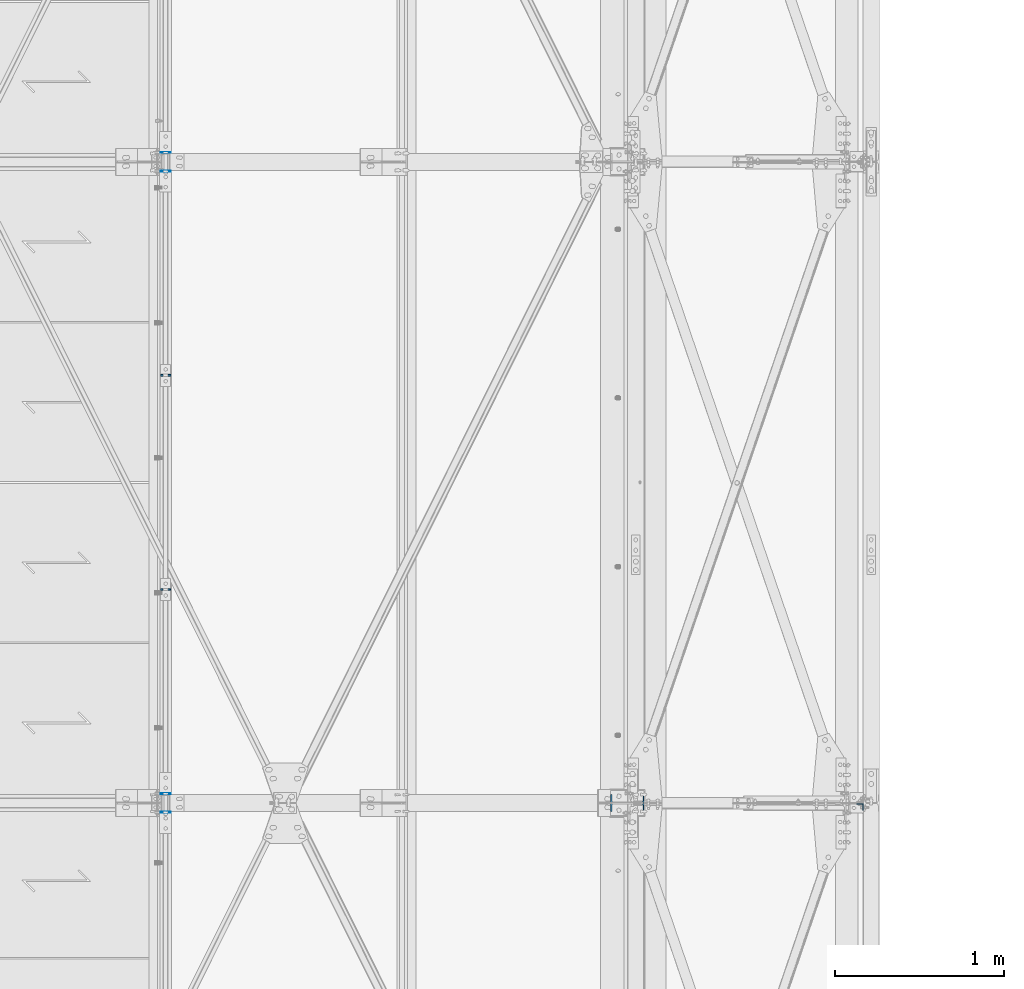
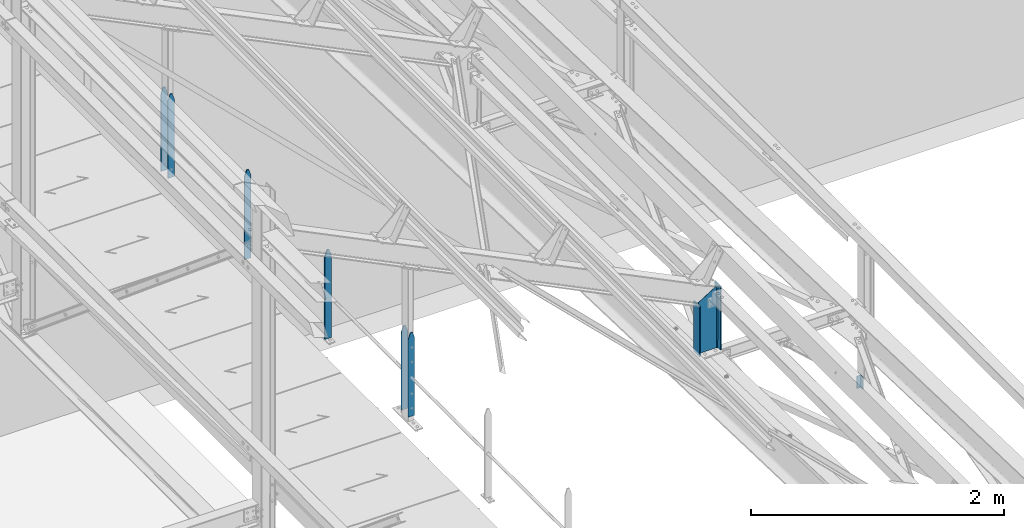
# One storey, part 37 of 362: 8 columns, 5 elements without a shape of their own.
"""IFC2X3 building model written with IfcOpenShell, lengths in millimetres."""

from ifc_helpers import new_model, si_unit, frame, origin_with_axes, origin_2d_with_axis, place, context, subcontext, project, spatial, rectangle, i_section, l_section, extrude, clip, halfspace, material, type_object, element, aggregate, save


model = new_model("IFC2X3")

# Units and contexts
model_context = context("Model", 3, precision=1e-05, world=origin_with_axes())
body_context = subcontext(model_context, "Body", "Model", "MODEL_VIEW")
ifc_project = project(units=[si_unit("LENGTHUNIT", "METRE", prefix="MILLI"), si_unit("AREAUNIT", "SQUARE_METRE"), si_unit("VOLUMEUNIT", "CUBIC_METRE"), si_unit("MASSUNIT", "GRAM", prefix="KILO"), si_unit("TIMEUNIT", "SECOND"), si_unit("PLANEANGLEUNIT", "RADIAN"), si_unit("SOLIDANGLEUNIT", "STERADIAN"), si_unit("THERMODYNAMICTEMPERATUREUNIT", "DEGREE_CELSIUS"), si_unit("LUMINOUSINTENSITYUNIT", "LUMEN")], contexts=[model_context])

# Site, building, storey
site_placement = place(None, origin_with_axes())
site = spatial("IfcSite", under=ifc_project, at=site_placement, Name="Undefined", CompositionType="ELEMENT")
building_placement = place(site_placement, origin_with_axes())
building = spatial("IfcBuilding", under=site, at=building_placement, Name="Undefined", CompositionType="ELEMENT")
storey_placement = place(building_placement, origin_with_axes())
storey = spatial("IfcBuildingStorey", under=building, at=storey_placement, Name="Undefined", CompositionType="ELEMENT", Elevation=0.0)

# Assembly, columns
assembly_1_placement = place(storey_placement, origin_with_axes())
assembly_1 = element("IfcElementAssembly", 1, at=assembly_1_placement, inside=storey, Name="MAIN COURANTE", AssemblyPlace="NOTDEFINED", PredefinedType="NOTDEFINED")
ifc_material_1 = material(Name="Undefined/S235-E24")
column_type_1 = type_object("IfcColumnType", Name="PL10*60", PredefinedType="NOTDEFINED")
column_1_placement = place(assembly_1_placement, frame((35593.9917150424, 5065.00343196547, 8250.00000552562), z_axis=(0.0, 0.0, 1.0), x_axis=(1.0, 0.0, 0.0)))
column_1 = element("IfcColumn", 2, at=column_1_placement, type_object=column_type_1, material=ifc_material_1, Name="MONTANT", ObjectType="PL10*60", context=body_context, shape_type="Clipping", body=[
    clip(clip(extrude(rectangle(XDim=10.0, YDim=60.0, at=origin_2d_with_axis()), frame((0.0, 0.0, 857.599997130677), z_axis=(0.0, 0.0, -1.0), x_axis=(0.0, 1.0, 0.0)), (0.0, 0.0, 1.0), 857.6), halfspace(frame((30.0000001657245, -5.000000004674, 797.599997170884), z_axis=(0.948683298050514, 0.0, 0.316227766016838), x_axis=(-0.316227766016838, 0.0, 0.948683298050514)), False)), halfspace(frame((-29.9999998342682, 4.99999999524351, 797.599997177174), z_axis=(-0.948683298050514, 0.0, 0.316227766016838), x_axis=(0.316227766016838, 0.0, 0.948683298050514)), False)),
])
column_2_placement = place(assembly_1_placement, frame((35593.9917160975, 6335.00343196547, 8250.00000465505), z_axis=(0.0, 0.0, 1.0), x_axis=(1.0, 0.0, 0.0)))
column_2 = element("IfcColumn", 3, at=column_2_placement, type_object=column_type_1, material=ifc_material_1, Name="MONTANT", ObjectType="PL10*60", context=body_context, shape_type="Clipping", body=[
    clip(clip(extrude(rectangle(XDim=10.0, YDim=60.0, at=origin_2d_with_axis()), frame((0.0, 0.0, 857.599997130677), z_axis=(0.0, 0.0, -1.0), x_axis=(0.0, 1.0, 0.0)), (0.0, 0.0, 1.0), 857.6), halfspace(frame((30.0000001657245, -5.000000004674, 797.599997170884), z_axis=(0.948683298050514, 0.0, 0.316227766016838), x_axis=(-0.316227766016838, 0.0, 0.948683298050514)), False)), halfspace(frame((-29.9999998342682, 4.99999999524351, 797.599997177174), z_axis=(-0.948683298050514, 0.0, 0.316227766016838), x_axis=(0.316227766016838, 0.0, 0.948683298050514)), False)),
])

# Assembly, column
assembly_2_placement = place(storey_placement, origin_with_axes())
assembly_2 = element("IfcElementAssembly", 4, at=assembly_2_placement, inside=storey, Name="MAIN COURANTE", AssemblyPlace="NOTDEFINED", PredefinedType="NOTDEFINED")
column_type_2 = type_object("IfcColumnType", Name="PL5*60", PredefinedType="NOTDEFINED")
column_3_placement = place(assembly_2_placement, frame((35593.9917143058, 3744.99999371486, 8300.00000650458), z_axis=(0.0, 0.0, 1.0), x_axis=(1.0, 0.0, 0.0)))
column_3 = element("IfcColumn", 5, at=column_3_placement, type_object=column_type_2, material=ifc_material_1, Name="MONTANT", ObjectType="PL5*60", context=body_context, shape_type="Clipping", body=[
    clip(clip(extrude(rectangle(XDim=5.0, YDim=60.0, at=origin_2d_with_axis()), frame((0.0, 0.0, 807.599997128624), z_axis=(0.0, 0.0, -1.0), x_axis=(0.0, 1.0, 0.0)), (0.0, 0.0, 1.0), 807.6), halfspace(frame((29.9999999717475, -5.00000000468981, 747.599997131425), z_axis=(0.948683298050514, 0.0, 0.316227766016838), x_axis=(-0.316227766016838, 0.0, 0.948683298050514)), False)), halfspace(frame((-30.000000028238, 4.99999999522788, 747.599997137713), z_axis=(-0.948683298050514, 0.0, 0.316227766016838), x_axis=(0.316227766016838, 0.0, 0.948683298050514)), False)),
])
aggregate(assembly_2, [column_3])

# Column
column_4_placement = place(assembly_1_placement, frame((35593.9917143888, 3854.99999370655, 8300.00000642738), z_axis=(0.0, 0.0, 1.0), x_axis=(1.0, 0.0, 0.0)))
column_4 = element("IfcColumn", 6, at=column_4_placement, type_object=column_type_2, material=ifc_material_1, Name="MONTANT", ObjectType="PL5*60", context=body_context, shape_type="Clipping", body=[
    clip(clip(extrude(rectangle(XDim=5.0, YDim=60.0, at=origin_2d_with_axis()), frame((0.0, 0.0, 807.599997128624), z_axis=(0.0, 0.0, -1.0), x_axis=(0.0, 1.0, 0.0)), (0.0, 0.0, 1.0), 807.6), halfspace(frame((29.9999999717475, -5.00000000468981, 747.599997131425), z_axis=(0.948683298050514, 0.0, 0.316227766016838), x_axis=(-0.316227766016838, 0.0, 0.948683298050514)), False)), halfspace(frame((-30.000000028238, 4.99999999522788, 747.599997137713), z_axis=(-0.948683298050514, 0.0, 0.316227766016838), x_axis=(0.316227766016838, 0.0, 0.948683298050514)), False)),
])

column_5_placement = place(assembly_1_placement, frame((35593.9917169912, 7544.99999371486, 8300.00000380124), z_axis=(0.0, 0.0, 1.0), x_axis=(1.0, 0.0, 0.0)))
column_5 = element("IfcColumn", 7, at=column_5_placement, type_object=column_type_2, material=ifc_material_1, Name="MONTANT", ObjectType="PL5*60", context=body_context, shape_type="Clipping", body=[
    clip(clip(extrude(rectangle(XDim=5.0, YDim=60.0, at=origin_2d_with_axis()), frame((0.0, 0.0, 807.599997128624), z_axis=(0.0, 0.0, -1.0), x_axis=(0.0, 1.0, 0.0)), (0.0, 0.0, 1.0), 807.6), halfspace(frame((29.9999999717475, -5.00000000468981, 747.599997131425), z_axis=(0.948683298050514, 0.0, 0.316227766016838), x_axis=(-0.316227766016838, 0.0, 0.948683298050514)), False)), halfspace(frame((-30.000000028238, 4.99999999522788, 747.599997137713), z_axis=(-0.948683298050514, 0.0, 0.316227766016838), x_axis=(0.316227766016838, 0.0, 0.948683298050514)), False)),
])

aggregate(assembly_1, [column_4, column_1, column_5, column_2])

# Assembly, column
assembly_3_placement = place(storey_placement, origin_with_axes())
assembly_3 = element("IfcElementAssembly", 8, at=assembly_3_placement, inside=storey, Name="MAIN COURANTE", AssemblyPlace="NOTDEFINED", PredefinedType="NOTDEFINED")
column_6_placement = place(assembly_3_placement, frame((35593.9917170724, 7654.9999937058, 8300.00000372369), z_axis=(0.0, 0.0, 1.0), x_axis=(1.0, 0.0, 0.0)))
column_6 = element("IfcColumn", 9, at=column_6_placement, type_object=column_type_2, material=ifc_material_1, Name="MONTANT", ObjectType="PL5*60", context=body_context, shape_type="Clipping", body=[
    clip(clip(extrude(rectangle(XDim=5.0, YDim=60.0, at=origin_2d_with_axis()), frame((0.0, 0.0, 807.599997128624), z_axis=(0.0, 0.0, -1.0), x_axis=(0.0, 1.0, 0.0)), (0.0, 0.0, 1.0), 807.6), halfspace(frame((29.9999999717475, -5.00000000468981, 747.599997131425), z_axis=(0.948683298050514, 0.0, 0.316227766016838), x_axis=(-0.316227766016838, 0.0, 0.948683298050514)), False)), halfspace(frame((-30.000000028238, 4.99999999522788, 747.599997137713), z_axis=(-0.948683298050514, 0.0, 0.316227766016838), x_axis=(0.316227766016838, 0.0, 0.948683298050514)), False)),
])
aggregate(assembly_3, [column_6])

assembly_4_placement = place(storey_placement, origin_with_axes())
assembly_4 = element("IfcElementAssembly", 10, at=assembly_4_placement, inside=storey, AssemblyPlace="NOTDEFINED", PredefinedType="NOTDEFINED")
column_type_3 = type_object("IfcColumnType", Name="L40*4", PredefinedType="NOTDEFINED")
column_7_placement = place(assembly_4_placement, frame((39709.0000003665, 3777.0, 7100.00000925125), z_axis=(0.0, 0.0, 1.0), x_axis=(-1.0, 0.0, 0.0)))
column_7 = element("IfcColumn", 11, at=column_7_placement, type_object=column_type_3, material=ifc_material_1, Name="ATTACHE", ObjectType="L40*4", context=body_context, shape_type="SweptSolid", body=[
    extrude(l_section(Depth=40.0, Width=40.0, Thickness=4.0, FilletRadius=6.0, EdgeRadius=3.0, at=origin_2d_with_axis()), frame((0.0, 0.0, 120.0), z_axis=(0.0, 0.0, -1.0), x_axis=(0.0, 1.0, 0.0)), (0.0, 0.0, 1.0), 120.0),
])
aggregate(assembly_4, [column_7])

assembly_5_placement = place(storey_placement, origin_with_axes())
assembly_5 = element("IfcElementAssembly", 12, at=assembly_5_placement, inside=storey, Name="TRAVERSE SHED", AssemblyPlace="NOTDEFINED", PredefinedType="NOTDEFINED")
ifc_material_2 = material(Name="Undefined/S275-E28")
column_type_4 = type_object("IfcColumnType", Name="IPE200", PredefinedType="NOTDEFINED")
column_8_placement = place(assembly_5_placement, frame((38330.0, 3800.0, 7930.51916728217), z_axis=(0.0, 0.0, 1.0), x_axis=(-1.0, 0.0, 0.0)))
column_8 = element("IfcColumn", 13, at=column_8_placement, type_object=column_type_4, material=ifc_material_2, Name="TRAVERSE SHED", ObjectType="IPE200", context=body_context, shape_type="Clipping", body=[
    clip(clip(extrude(i_section(OverallWidth=100.0, OverallDepth=200.0, WebThickness=5.599999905, FlangeThickness=8.5, FilletRadius=12.0, at=origin_2d_with_axis()), frame((0.0, 0.0, 621.690529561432), z_axis=(0.0, 0.0, -1.0), x_axis=(0.0, 1.0, 0.0)), (0.0, 0.0, 1.0), 676.1), halfspace(frame((100.0, 3800.0, 494.947736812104), z_axis=(-0.528573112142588, 0.0, -0.848887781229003), x_axis=(0.0, 1.0, 0.0)), True)), halfspace(frame((0.0, -69.1281704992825, 7.89492713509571), z_axis=(0.0, 0.031410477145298, -0.999506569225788), x_axis=(1.0, 0.0, 0.0)), False)),
])
aggregate(assembly_5, [column_8])

save(model, "model.ifc")
